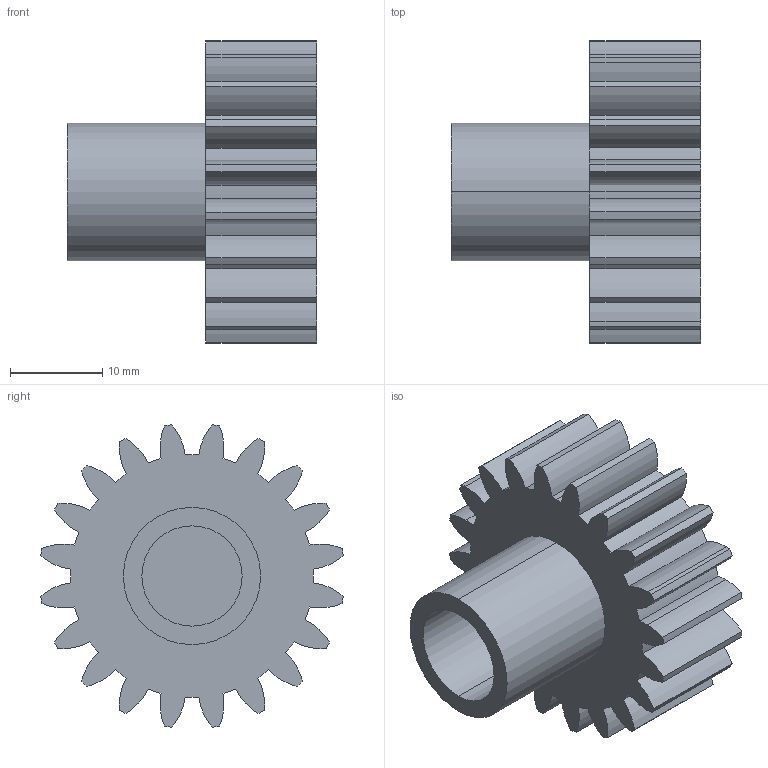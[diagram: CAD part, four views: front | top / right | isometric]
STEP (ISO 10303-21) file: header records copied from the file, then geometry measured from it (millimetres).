
FILE_DESCRIPTION (( 'STEP AP214' ), '1' );
FILE_NAME ('Brush Head + Gear.STEP', '2024-07-18T10:04:01', ( '' ), ( '' ), 'SwSTEP 2.0', 'SolidWorks 2023', '' );
FILE_SCHEMA (( 'AUTOMOTIVE_DESIGN' ));
Length unit declared in the file: millimetre
Products named in the file (1): Brush Head + Gear
Bounding box: 27 x 32.71 x 32.71 mm (x, y, z)
Volume: 9399.4 mm3; surface area: 4856.9 mm2
Topology: 1 solids, 1 shells, 93 faces, 267 edges, 178 vertices
Faces by surface type: cylinder 89, plane 4
Entity records: 3182 total; most frequent: DIRECTION 633, CARTESIAN_POINT 539, ORIENTED_EDGE 534, AXIS2_PLACEMENT_3D 272, EDGE_CURVE 267, CIRCLE 178, VERTEX_POINT 178, EDGE_LOOP 95
